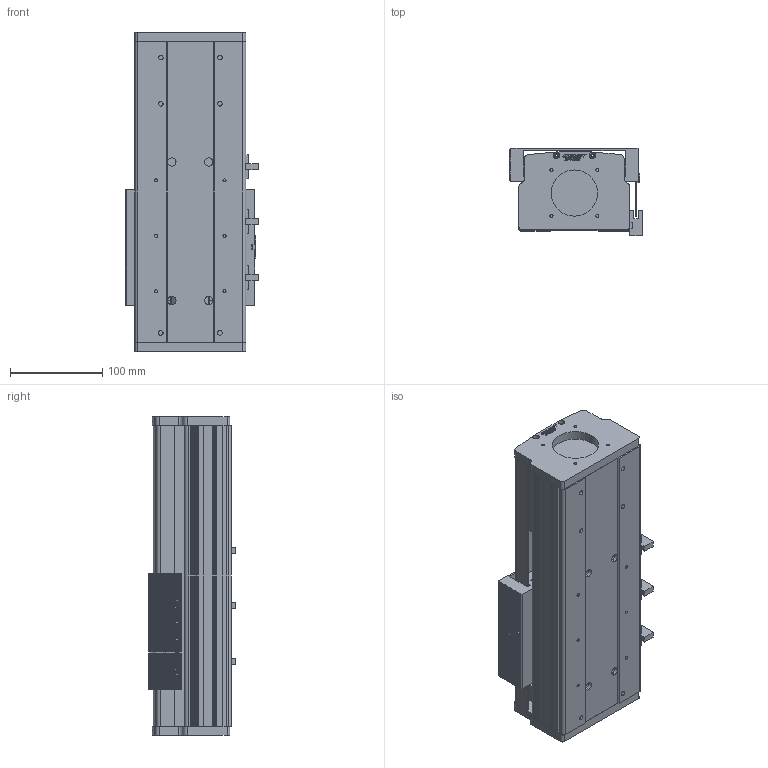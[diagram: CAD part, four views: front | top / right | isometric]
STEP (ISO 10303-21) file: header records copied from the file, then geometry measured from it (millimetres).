
FILE_DESCRIPTION (( 'STEP AP214' ), '1' );
FILE_NAME ('CF120B-C-50-FW.STEP', '2020-07-15T01:52:29', ( '微软用户' ), ( '微软中国' ), 'SwSTEP 2.0', 'SolidWorks 2016', '' );
FILE_SCHEMA (( 'AUTOMOTIVE_DESIGN' ));
Length unit declared in the file: millimetre
Products named in the file (12): 嫖萇羲壽; 75-86-95癹弇羲壽覜茼え; 120B珨极嘐隅釱; CF120-2耜啣; CF120-2盓厥釱; CF120B裔啣-50; CF120-2-2賑雄啣; CF120-2-1賑雄輸; EGR15絳寢-50; EGH-15-CABZnew; CF120B臏倰第-50; CF120B-C-50-FW
Assembly tree (17 placements, depth 2):
  CF120B-C-50-FW
    CF120B臏倰第-50
    EGH-15-CABZnew  x4
    EGR15絳寢-50  x2
    CF120-2-1賑雄輸
    CF120-2-2賑雄啣
    CF120B裔啣-50
    CF120-2盓厥釱
    CF120-2耜啣
    120B珨极嘐隅釱
    75-86-95癹弇羲壽覜茼え
    嫖萇羲壽  x3
Bounding box: 143.6 x 94.14 x 345 mm (x, y, z)
Volume: 2191573.1 mm3; surface area: 695732.5 mm2
Topology: 13 solids, 65 shells, 7353 faces, 27755 edges, 19102 vertices
Faces by surface type: plane 3621, bspline 2474, cylinder 902, cone 132, torus 128, sphere 96
Entity records: 140055 total; most frequent: CARTESIAN_POINT 50562, ORIENTED_EDGE 15802, DIRECTION 11880, EDGE_CURVE 9025, VERTEX_POINT 6176, LINE 5360, VECTOR 5360, AXIS2_PLACEMENT_3D 3260
